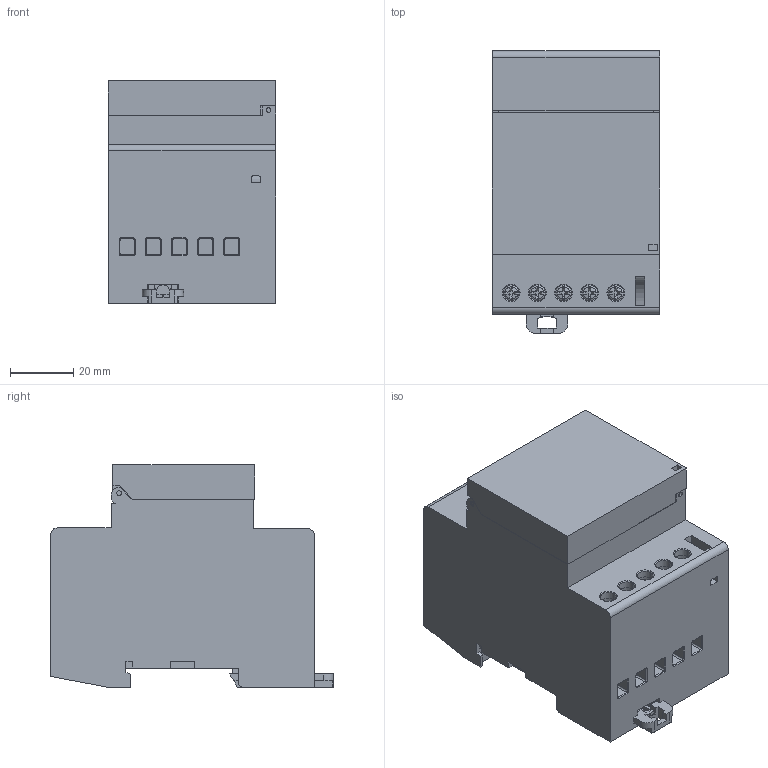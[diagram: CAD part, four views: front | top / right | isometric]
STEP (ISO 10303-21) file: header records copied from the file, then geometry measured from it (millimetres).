
FILE_DESCRIPTION (( 'STEP AP214' ), '1' );
FILE_NAME ('MA_-A16-001-A230__upr.step', '2014-09-04T12:53:35', ( '' ), ( '' ), 'SwSTEP 2.0', 'SolidWorks 2011', '' );
FILE_SCHEMA (( 'AUTOMOTIVE_DESIGN' ));
Length unit declared in the file: millimetre
Products named in the file (1): MA_-A16-001-A230__upr
Bounding box: 52.8 x 89 x 70.1 mm (x, y, z)
Volume: 223411.1 mm3; surface area: 42689.5 mm2
Topology: 2 solids, 2 shells, 1704 faces, 4840 edges, 3190 vertices
Faces by surface type: plane 991, cylinder 404, bspline 147, torus 120, cone 32, sphere 10
Entity records: 80708 total; most frequent: CARTESIAN_POINT 20068, ORIENTED_EDGE 9680, DIRECTION 8400, EDGE_CURVE 4840, VERTEX_POINT 3190, VECTOR 3148, LINE 3148, AXIS2_PLACEMENT_3D 2626
